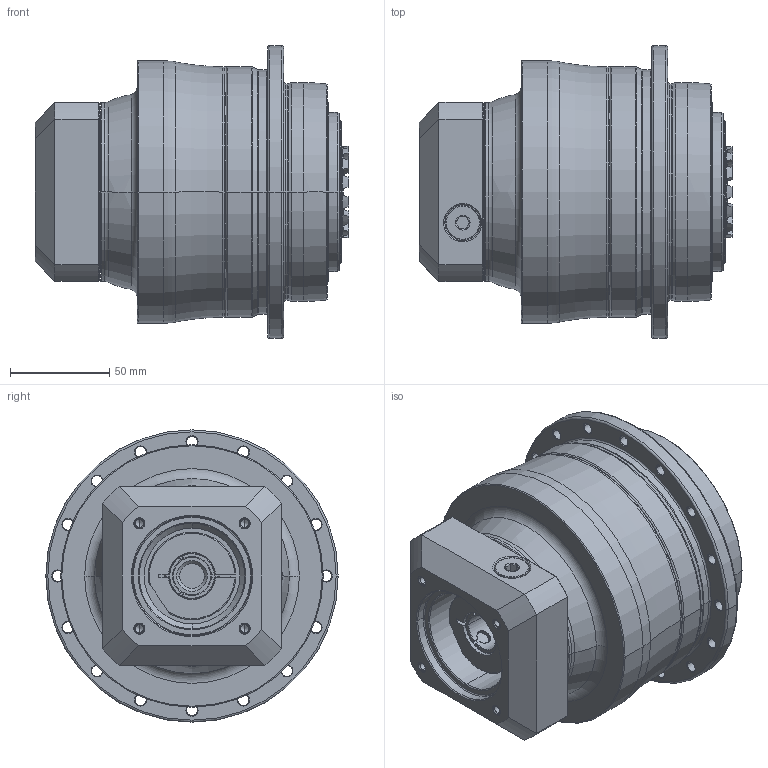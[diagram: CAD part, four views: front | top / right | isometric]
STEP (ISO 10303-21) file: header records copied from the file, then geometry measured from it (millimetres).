
FILE_DESCRIPTION((''),'2;1');
FILE_NAME('APC110_2ST_19-P0409400201_ASM','2018-06-14T',('d01226'),(''),'PRO/ENGINEER BY PARAMETRIC TECHNOLOGY CORPORATION, 2008410','PRO/ENGINEER BY PARAMETRIC TECHNOLOGY CORPORATION, 2008410','');
FILE_SCHEMA(('CONFIG_CONTROL_DESIGN'));
Length unit declared in the file: millimetre
Products named in the file (9): P0278400003; P03594C0103; P1317410101; P0503400006; P0912302001; P1211400001; P0409400201; 21711412017; APC110_2ST_19-P0409400201_ASM
Assembly tree (8 placements, depth 2):
  APC110_2ST_19-P0409400201_ASM
    P0278400003
    P03594C0103
    P1317410101
    P0503400006
    P0912302001
    P1211400001
    P0409400201
    21711412017
Bounding box: 157.9 x 147 x 147 mm (x, y, z)
Volume: 1523788 mm3; surface area: 210036.3 mm2
Topology: 9 solids, 20 shells, 626 faces, 1493 edges, 909 vertices
Faces by surface type: cylinder 196, cone 192, plane 120, torus 102, bspline 16
Entity records: 23084 total; most frequent: CARTESIAN_POINT 8213, DIRECTION 3329, ORIENTED_EDGE 2908, EDGE_CURVE 1475, AXIS2_PLACEMENT_3D 1448, VERTEX_POINT 909, CIRCLE 811, EDGE_LOOP 714
